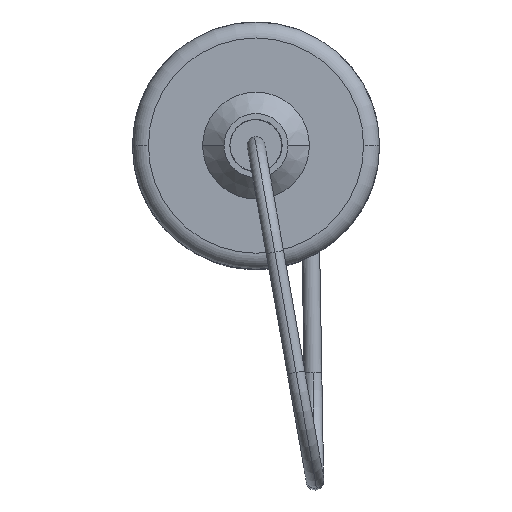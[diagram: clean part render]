
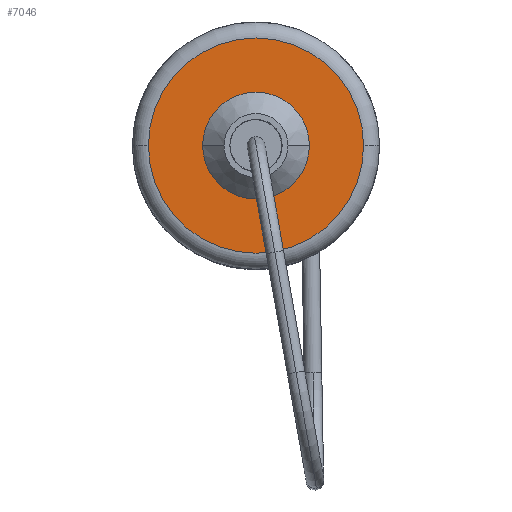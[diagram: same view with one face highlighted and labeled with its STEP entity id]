
A CAD part, top view. The second image highlights one B-rep face of the part: STEP entity #7046.
In plain terms, the highlighted planar face has unit normal (0, 0, 1).
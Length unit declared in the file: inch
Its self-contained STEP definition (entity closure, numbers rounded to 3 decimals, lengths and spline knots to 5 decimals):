
#512 = ORIENTED_EDGE ( 'NONE', *, *, #1472, .F. ) ;
#1111 = FACE_OUTER_BOUND ( 'NONE', #4250, .T. ) ;
#1198 = DIRECTION ( 'NONE',  ( 1., 0., 0. ) ) ;
#1351 = EDGE_LOOP ( 'NONE', ( #6494, #512 ) ) ;
#1440 = AXIS2_PLACEMENT_3D ( 'NONE', #6555, #1712, #5308 ) ;
#1472 = EDGE_CURVE ( 'NONE', #3643, #2705, #4173, .T. ) ;
#1712 = DIRECTION ( 'NONE',  ( 0., 0., 1. ) ) ;
#1723 = EDGE_CURVE ( 'NONE', #6521, #1813, #1923, .T. ) ;
#1813 = VERTEX_POINT ( 'NONE', #6838 ) ;
#1841 = DIRECTION ( 'NONE',  ( 0., 0., 1. ) ) ;
#1923 = CIRCLE ( 'NONE', #5611, 0.39665 ) ;
#2185 = ORIENTED_EDGE ( 'NONE', *, *, #1723, .T. ) ;
#2365 = CIRCLE ( 'NONE', #1440, 0.39665 ) ;
#2705 = VERTEX_POINT ( 'NONE', #7327 ) ;
#3643 = VERTEX_POINT ( 'NONE', #7956 ) ;
#3721 = DIRECTION ( 'NONE',  ( 0., 0., -1. ) ) ;
#3829 = AXIS2_PLACEMENT_3D ( 'NONE', #6940, #4504, #5738 ) ;
#3956 = CARTESIAN_POINT ( 'NONE',  ( 0.39665, 0., 1.10236 ) ) ;
#4173 = CIRCLE ( 'NONE', #6931, 0.19685 ) ;
#4212 = AXIS2_PLACEMENT_3D ( 'NONE', #5026, #3721, #1198 ) ;
#4250 = EDGE_LOOP ( 'NONE', ( #7814, #2185 ) ) ;
#4398 = DIRECTION ( 'NONE',  ( -1., 0., 0. ) ) ;
#4504 = DIRECTION ( 'NONE',  ( 0., 0., 1. ) ) ;
#5026 = CARTESIAN_POINT ( 'NONE',  ( 0., -0.19685, 1.10236 ) ) ;
#5308 = DIRECTION ( 'NONE',  ( -1., 0., 0. ) ) ;
#5484 = PLANE ( 'NONE',  #4212 ) ;
#5611 = AXIS2_PLACEMENT_3D ( 'NONE', #6232, #1841, #4398 ) ;
#5738 = DIRECTION ( 'NONE',  ( -1., 0., 0. ) ) ;
#6232 = CARTESIAN_POINT ( 'NONE',  ( 0., 0., 1.10236 ) ) ;
#6494 = ORIENTED_EDGE ( 'NONE', *, *, #7975, .F. ) ;
#6521 = VERTEX_POINT ( 'NONE', #3956 ) ;
#6555 = CARTESIAN_POINT ( 'NONE',  ( 0., 0., 1.10236 ) ) ;
#6562 = DIRECTION ( 'NONE',  ( -1., 0., 0. ) ) ;
#6765 = FACE_BOUND ( 'NONE', #1351, .T. ) ;
#6838 = CARTESIAN_POINT ( 'NONE',  ( -0.39665, 0., 1.10236 ) ) ;
#6931 = AXIS2_PLACEMENT_3D ( 'NONE', #7759, #7223, #6562 ) ;
#6940 = CARTESIAN_POINT ( 'NONE',  ( 0., 0., 1.10236 ) ) ;
#7046 = ADVANCED_FACE ( 'NONE', ( #6765, #1111 ), #5484, .F. ) ;
#7223 = DIRECTION ( 'NONE',  ( 0., 0., 1. ) ) ;
#7327 = CARTESIAN_POINT ( 'NONE',  ( 0.19685, 0., 1.10236 ) ) ;
#7528 = EDGE_CURVE ( 'NONE', #1813, #6521, #2365, .T. ) ;
#7759 = CARTESIAN_POINT ( 'NONE',  ( 0., 0., 1.10236 ) ) ;
#7778 = CIRCLE ( 'NONE', #3829, 0.19685 ) ;
#7814 = ORIENTED_EDGE ( 'NONE', *, *, #7528, .T. ) ;
#7956 = CARTESIAN_POINT ( 'NONE',  ( -0.19685, 0., 1.10236 ) ) ;
#7975 = EDGE_CURVE ( 'NONE', #2705, #3643, #7778, .T. ) ;
